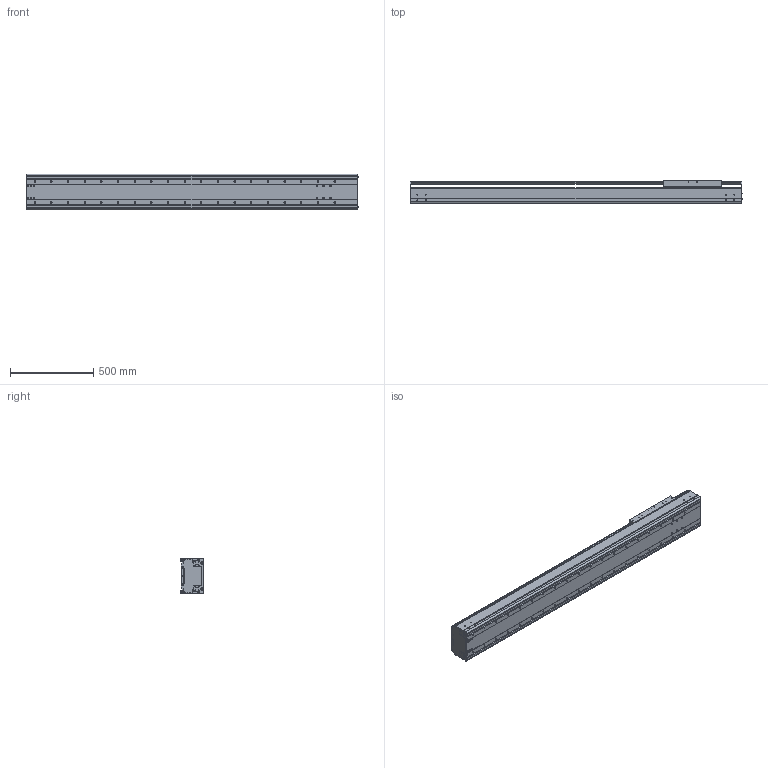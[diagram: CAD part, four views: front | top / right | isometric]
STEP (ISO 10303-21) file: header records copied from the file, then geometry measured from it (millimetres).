
FILE_DESCRIPTION((''),'2;1');
FILE_NAME('BE60J-ST-L_N-E5_IGS_PRT','2017-06-18T',(' '),(''),'PRO/ENGINEER BY PARAMETRIC TECHNOLOGY CORPORATION, 2015030','PRO/ENGINEER BY PARAMETRIC TECHNOLOGY CORPORATION, 2015030','');
FILE_SCHEMA(('CONFIG_CONTROL_DESIGN'));
Length unit declared in the file: millimetre
Products named in the file (1): BE60J-ST-L_N-E5_IGS_PRT
Bounding box: 1992.4 x 140 x 214 mm (x, y, z)
Volume: 15430964.1 mm3; surface area: 4190945.4 mm2
Topology: 2 solids, 136 shells, 1591 faces, 4504 edges, 3016 vertices
Faces by surface type: cylinder 852, plane 631, cone 60, sphere 24, torus 24
Entity records: 54050 total; most frequent: CARTESIAN_POINT 12299, DIRECTION 8678, ORIENTED_EDGE 8368, EDGE_CURVE 4448, AXIS2_PLACEMENT_3D 3260, VERTEX_POINT 3016, VECTOR 2158, LINE 2158
